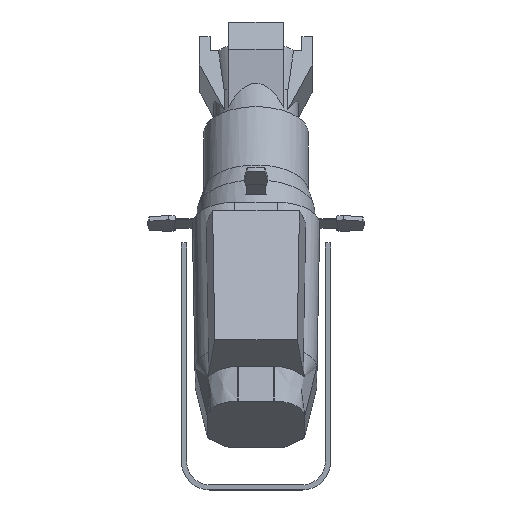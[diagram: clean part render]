
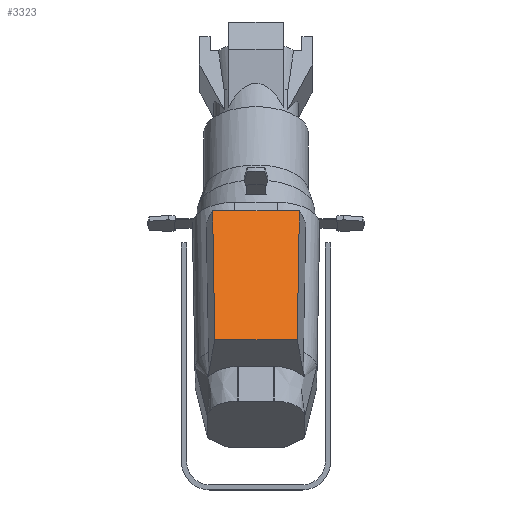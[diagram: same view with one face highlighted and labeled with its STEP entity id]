
A CAD part, top view. The second image highlights one B-rep face of the part: STEP entity #3323.
In plain terms, the highlighted planar face has unit normal (0, 0.494, 0.87) as drawn and (0, 1, 0.007) by its records, which use the part's own axes.
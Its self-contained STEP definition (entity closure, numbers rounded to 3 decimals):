
#209=PLANE('',#3624);
#475=FACE_OUTER_BOUND('',#665,.T.);
#665=EDGE_LOOP('',(#2876,#2877,#2878,#2879));
#925=LINE('',#5425,#1230);
#958=LINE('',#5924,#1263);
#961=LINE('',#5934,#1266);
#962=LINE('',#5935,#1267);
#1230=VECTOR('',#4322,10.);
#1263=VECTOR('',#4385,10.);
#1266=VECTOR('',#4392,10.);
#1267=VECTOR('',#4393,10.);
#1565=VERTEX_POINT('',#5422);
#1566=VERTEX_POINT('',#5424);
#1605=VERTEX_POINT('',#5921);
#1606=VERTEX_POINT('',#5923);
#1990=EDGE_CURVE('',#1565,#1566,#925,.T.);
#2048=EDGE_CURVE('',#1606,#1605,#958,.T.);
#2052=EDGE_CURVE('',#1605,#1566,#961,.T.);
#2053=EDGE_CURVE('',#1606,#1565,#962,.T.);
#2876=ORIENTED_EDGE('',*,*,#2052,.T.);
#2877=ORIENTED_EDGE('',*,*,#1990,.F.);
#2878=ORIENTED_EDGE('',*,*,#2053,.F.);
#2879=ORIENTED_EDGE('',*,*,#2048,.T.);
#3323=ADVANCED_FACE('',(#475),#209,.T.);
#3624=AXIS2_PLACEMENT_3D('',#5933,#4390,#4391);
#4322=DIRECTION('',(-0.015,-0.007,1.));
#4385=DIRECTION('',(0.015,-0.007,1.));
#4390=DIRECTION('center_axis',(0.,1.,0.007));
#4391=DIRECTION('ref_axis',(0.,-0.007,1.));
#4392=DIRECTION('',(1.,0.,0.));
#4393=DIRECTION('',(1.,0.,0.));
#5422=CARTESIAN_POINT('',(66.66,145.687,-72.702));
#5424=CARTESIAN_POINT('',(63.318,144.091,154.825));
#5425=CARTESIAN_POINT('',(65.491,145.128,6.882));
#5921=CARTESIAN_POINT('',(-63.318,144.091,154.825));
#5923=CARTESIAN_POINT('',(-66.66,145.687,-72.702));
#5924=CARTESIAN_POINT('',(-65.491,145.128,6.882));
#5933=CARTESIAN_POINT('Origin',(-23.12,144.826,50.034));
#5934=CARTESIAN_POINT('',(25.573,144.091,154.825));
#5935=CARTESIAN_POINT('',(23.12,145.687,-72.702));
